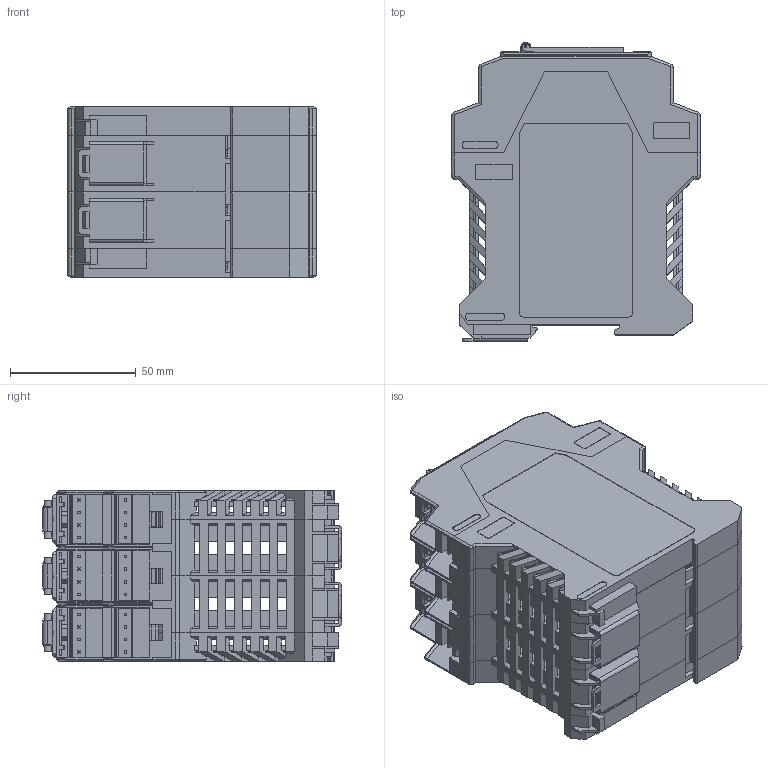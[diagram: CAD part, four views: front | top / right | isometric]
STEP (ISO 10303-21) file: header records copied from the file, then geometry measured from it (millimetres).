
FILE_DESCRIPTION(/* description */ (''),/* implementation_level */ '2;1');
FILE_NAME(/* name */ 'SG_BWS_T4_MT_jt.stp',/* time_stamp */ '2018-03-20T15:26:38+01:00',/* author */ (''),/* organization */ (''),/* preprocessor_version */ 'ST-DEVELOPER v16',/* originating_system */ 'SIEMENS PLM Software NX 10.0',/* authorisation */ '');
FILE_SCHEMA (('AUTOMOTIVE_DESIGN { 1 0 10303 214 3 1 1 1 }'));
Products named in the file (1): mbra293022CEw7ww
Bounding box: 99 x 119.1 x 67.8 mm (x, y, z)
Volume: 150189.1 mm3; surface area: 173104.2 mm2
Topology: 69 solids, 72 shells, 5753 faces, 15311 edges, 9700 vertices
Faces by surface type: plane 4237, cylinder 655, bspline 648, cone 201, sphere 12
Full cylindrical faces by diameter (mm): 0.75 x6, 0.8 x15, 2.5 x18, 3 x24, 3.2 x6, 6 x6
Entity records: 191303 total; most frequent: CARTESIAN_POINT 45297, ORIENTED_EDGE 30328, DIRECTION 26058, EDGE_CURVE 15164, LINE 12178, VECTOR 12178, VERTEX_POINT 9700, AXIS2_PLACEMENT_3D 6940
